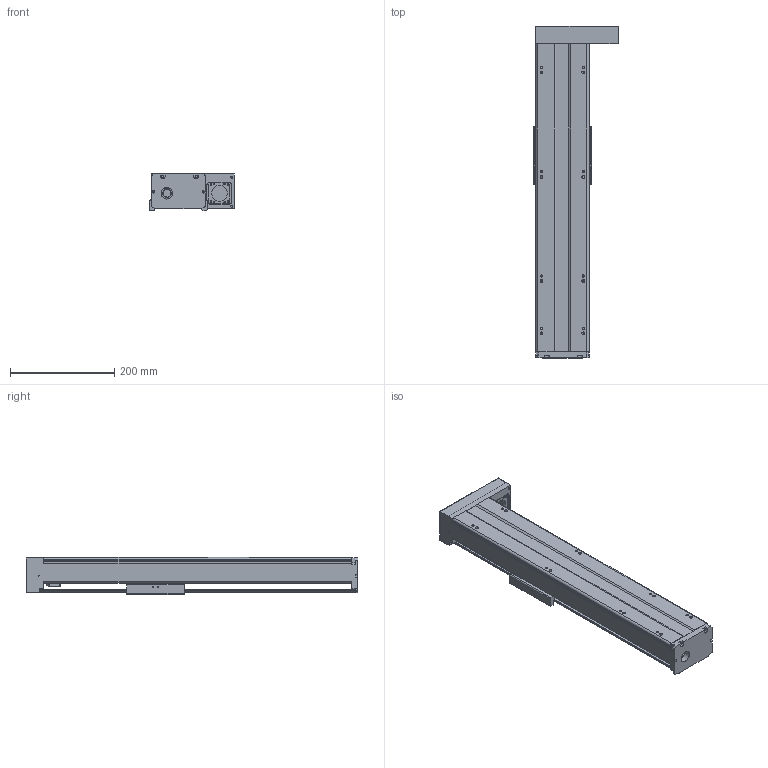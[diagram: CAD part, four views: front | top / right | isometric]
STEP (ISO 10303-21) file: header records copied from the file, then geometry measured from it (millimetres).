
FILE_DESCRIPTION(/* description */ (''),/* implementation_level */ '2;1');
FILE_NAME(/* name */ 'TKA100-FR-400_asm1.stp',/* time_stamp */ '2016-05-17T15:33:41+08:00',/* author */ (''),/* organization */ (''),/* preprocessor_version */ 'ST-DEVELOPER v15',/* originating_system */ 'SIEMENS PLM Software NX 8.5',/* authorisation */ '');
FILE_SCHEMA (('AUTOMOTIVE_DESIGN { 1 0 10303 214 3 1 1 1 }'));
Length unit declared in the file: millimetre
Products named in the file (3): 200-2; 200-1; TKA100-FR-400_asm1
Assembly tree (2 placements, depth 2):
  TKA100-FR-400_asm1
    200-1
    200-2
Bounding box: 162 x 636 x 71 mm (x, y, z)
Volume: 1489965.8 mm3; surface area: 510242.8 mm2
Topology: 2 solids, 16 shells, 788 faces, 2043 edges, 1332 vertices
Faces by surface type: plane 320, cylinder 295, cone 119, torus 28, bspline 26
Full cylindrical faces by diameter (mm): 2.5 x6, 2.6 x8, 3.3 x11, 3.4 x4, 3.8 x8, 4.2 x17, 4.3 x4, 4.5 x6, 5 x2, 5.5 x16, 6.6 x4, 8 x4, 9 x6, 10 x9, 11 x4, 12 x6, 15.3 x1, 16 x1, 22 x1, 24 x1, 28 x2, 30 x1, 33 x1
Entity records: 28780 total; most frequent: CARTESIAN_POINT 10534, DIRECTION 3741, ORIENTED_EDGE 3552, EDGE_CURVE 1776, AXIS2_PLACEMENT_3D 1473, VERTEX_POINT 1254, EDGE_LOOP 1075, LINE 795
